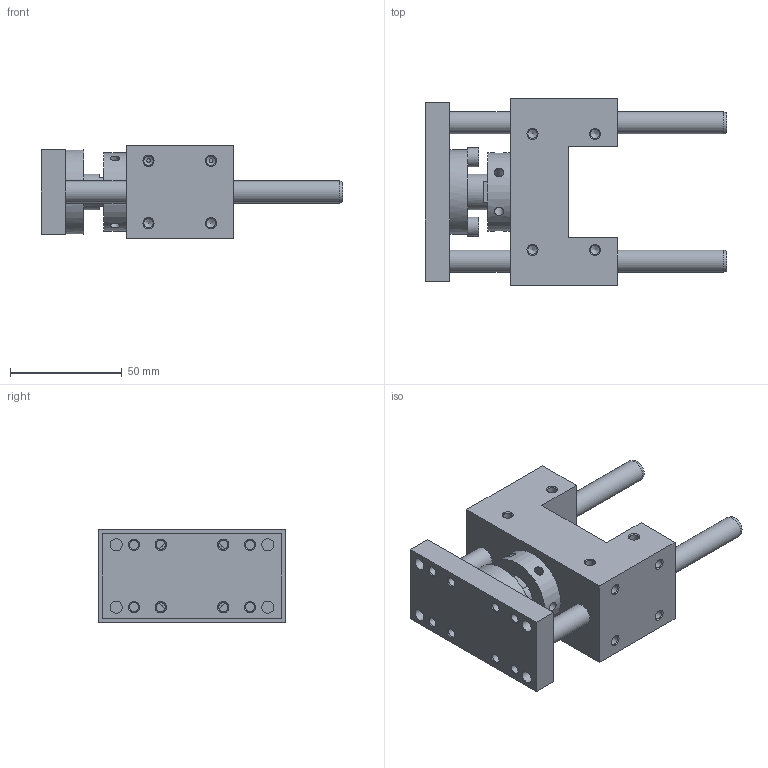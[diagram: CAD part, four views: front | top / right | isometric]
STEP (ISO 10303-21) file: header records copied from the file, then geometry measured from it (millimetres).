
FILE_DESCRIPTION( ( 'STEP AP214' ), '1' );
FILE_NAME( 'U:/Etudes/Top Solid/BIBLIO 3D AVM/TOP/PNEUMATIQUE/GUIDAGES/Type 34 (en U)/_Légère/3430110.step', '2005-05-27T12:16:12', ( ' ' ), ( ' ' ), 'XStep 1.0', ' ', ' ' );
FILE_SCHEMA( ( 'automotive_design' ) );
Length unit declared in the file: metre
Products named in the file (2): 1; 2
Bounding box: 135 x 84 x 42 mm (x, y, z)
Volume: 178527.8 mm3; surface area: 49901.7 mm2
Topology: 2 solids, 5 shells, 176 faces, 458 edges, 295 vertices
Faces by surface type: cylinder 69, plane 57, cone 50
Full cylindrical faces by diameter (mm): 4.134 x36, 4.2 x6, 5 x4, 5.5 x6, 8.5 x2, 8.647 x2, 10 x4, 16 x1, 18 x1, 20.376 x2, 22.8 x1, 25 x2, 35 x1, 38 x1
Entity records: 6505 total; most frequent: CARTESIAN_POINT 1502, DIRECTION 764, ORIENTED_EDGE 526, EDGE_LOOP 356, AXIS2_PLACEMENT_3D 341, EDGE_CURVE 263, FACE_OUTER_BOUND 245, VERTEX_POINT 231
